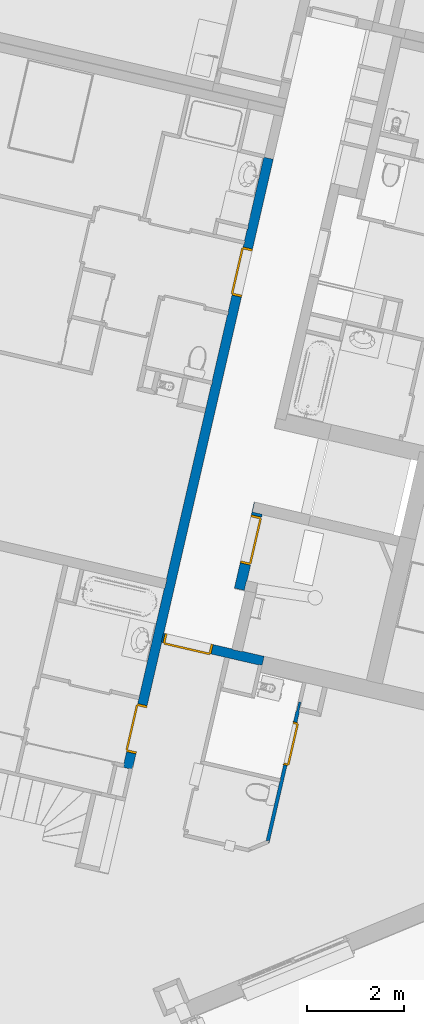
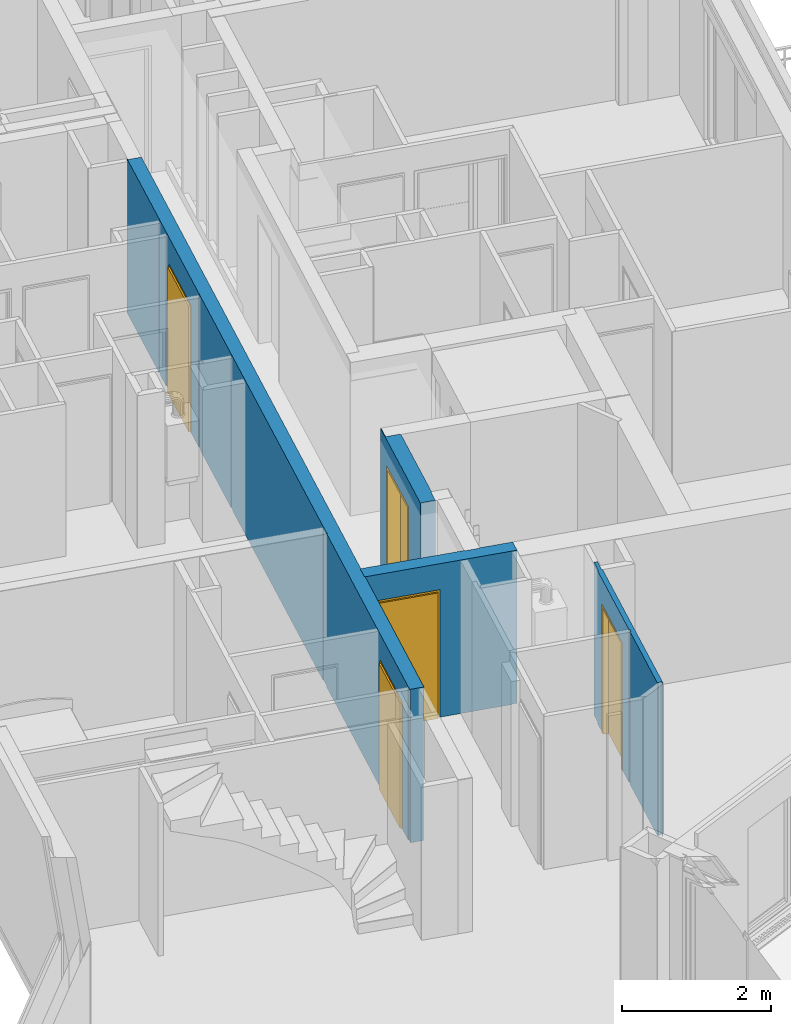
# One storey, part 8 of 62: 5 doors, 4 walls, 5 openings.
"""IFC2X3 building model written with IfcOpenShell, lengths in metres."""

from ifc_helpers import new_model, entity, si_unit, converted_unit, derived_unit, money_unit, direction, frame, origin_with_axes, place, context, subcontext, project, spatial, faceted_brep, source, transform, mapped, material, material_list, type_object, element, fill, save


model = new_model("IFC2X3")

# Units and contexts
model_context = context("Model", 3, precision=1e-05, world=origin_with_axes(), true_north=direction((0.0, 1.0)))
body_context = subcontext(model_context, "Body", "Model", "MODEL_VIEW")
ifc_project = project(units=[si_unit("LENGTHUNIT", "METRE"), si_unit("AREAUNIT", "SQUARE_METRE"), si_unit("VOLUMEUNIT", "CUBIC_METRE"), converted_unit("PLANEANGLEUNIT", "DEGREE", entity("IfcPlaneAngleMeasure", 0.0174532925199), si_unit("PLANEANGLEUNIT", "RADIAN"), dimensions=[0, 0, 0, 0, 0, 0, 0]), si_unit("SOLIDANGLEUNIT", "STERADIAN"), money_unit("EUR"), converted_unit("TIMEUNIT", "Year", entity("IfcTimeMeasure", 31556926.0), si_unit("TIMEUNIT", "SECOND"), dimensions=[0, 0, 1, 0, 0, 0, 0]), si_unit("MASSUNIT", "GRAM", prefix="KILO"), si_unit("THERMODYNAMICTEMPERATUREUNIT", "DEGREE_CELSIUS"), si_unit("LUMINOUSINTENSITYUNIT", "LUMEN"), si_unit("ENERGYUNIT", "JOULE", prefix="MEGA"), derived_unit("THERMALCONDUCTANCEUNIT", [(si_unit("POWERUNIT", "WATT"), 1), (si_unit("LENGTHUNIT", "METRE"), -1), (si_unit("THERMODYNAMICTEMPERATUREUNIT", "KELVIN"), -1)]), derived_unit("SPECIFICHEATCAPACITYUNIT", [(si_unit("ENERGYUNIT", "JOULE"), 1), (si_unit("MASSUNIT", "GRAM", prefix="KILO"), -1), (si_unit("THERMODYNAMICTEMPERATUREUNIT", "KELVIN"), -1)]), derived_unit("MASSDENSITYUNIT", [(si_unit("MASSUNIT", "GRAM", prefix="KILO"), 1), (si_unit("VOLUMEUNIT", "CUBIC_METRE"), -1)])], contexts=[model_context])

# Site, building, storey
site_placement = place(None, origin_with_axes())
site = spatial("IfcSite", under=ifc_project, at=site_placement, Name="Site", CompositionType="ELEMENT")
building_placement = place(site_placement, origin_with_axes())
building = spatial("IfcBuilding", under=site, at=building_placement, Name="Bâtiment", CompositionType="ELEMENT")
storey_placement = place(building_placement, frame((0.0, 0.0, 8.16), z_axis=(0.0, 0.0, 1.0), x_axis=(1.0, 0.0, 0.0)))
storey = spatial("IfcBuildingStorey", under=building, at=storey_placement, Name="R+3", CompositionType="ELEMENT", Elevation=8.16)

# Wall, opening, door
ifc_material_1 = material(Name="Finition int - Plaque de plâtre")
ifc_material_2 = material(Name="Isolation - Laine de roche")
ifc_material_list_1 = material_list([ifc_material_1, ifc_material_2, ifc_material_1])
wall_type_1 = type_object("IfcWallType", Name="3 - Cloison 72mm Placostil 74", PredefinedType="USERDEFINED")
wall_1_placement = place(storey_placement, frame((-9.85326407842, -10.0442394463, 0.0), z_axis=(0.0, 0.0, 1.0), x_axis=(-0.224876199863, -0.974387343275, 0.0)))
wall_1 = element("IfcWall", 1, at=wall_1_placement, inside=storey, type_object=wall_type_1, material=ifc_material_list_1, Name="Cloison Placostil 72/48", ObjectType="PARTITIONING", context=body_context, shape_type="Brep", body=[
    faceted_brep([(1.13692344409, 0.0, 0.0), (1.13692344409, 0.0, 2.08), (0.226923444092, 0.0, 2.08), (0.226923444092, 0.0, 0.0), (0.0, 0.0, 0.0), (0.0, 0.0, 2.5), (2.77059996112, 0.0, 2.5), (2.77059996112, 0.0, 0.0), (1.13692344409, -0.013, 0.0), (1.13692344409, -0.013, 2.08), (0.226923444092, -0.013, 2.08), (0.226923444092, -0.013, 0.0), (0.0, -0.013, 0.0), (0.0, -0.013, 2.5), (2.77988037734, -0.013, 2.5), (2.77988037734, -0.013, 0.0)], [[[0, 1, 2, 3, 4, 5, 6, 7]], [[1, 0, 8, 9]], [[2, 1, 9, 10]], [[3, 2, 10, 11]], [[3, 11, 12, 4]], [[13, 5, 4, 12]], [[5, 13, 14, 6]], [[7, 6, 14, 15]], [[8, 0, 7, 15]], [[9, 8, 15, 14, 13, 12, 11, 10]]]),
    faceted_brep([(1.13692344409, -0.013, 0.0), (1.13692344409, -0.013, 2.08), (0.226923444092, -0.013, 2.08), (0.226923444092, -0.013, 0.0), (-0.2, -0.013, 0.0), (-0.2, -0.013, 2.5), (2.72090437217, -0.013, 2.5), (2.72090437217, -0.013, 0.0), (1.13692344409, -0.061, 0.0), (1.13692344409, -0.061, 2.08), (0.226923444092, -0.061, 2.08), (0.226923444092, -0.061, 0.0), (-0.2, -0.061, 0.0), (-0.2, -0.061, 2.5), (2.75517052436, -0.061, 2.5), (2.75517052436, -0.061, 0.0)], [[[0, 1, 2, 3, 4, 5, 6, 7]], [[1, 0, 8, 9]], [[2, 1, 9, 10]], [[3, 2, 10, 11]], [[3, 11, 12, 4]], [[4, 12, 13, 5]], [[5, 13, 14, 6]], [[7, 6, 14, 15]], [[8, 0, 7, 15]], [[9, 8, 15, 14, 13, 12, 11, 10]]]),
    faceted_brep([(1.13692344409, -0.061, 0.0), (1.13692344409, -0.061, 2.08), (0.226923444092, -0.061, 2.08), (0.226923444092, -0.061, 0.0), (0.0, -0.061, 0.0), (0.0, -0.061, 2.5), (1.44696351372, -0.061, 2.5), (1.44696351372, -0.061, 0.0), (1.13692344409, -0.074, 0.0), (1.13692344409, -0.074, 2.08), (0.226923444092, -0.074, 2.08), (0.226923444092, -0.074, 0.0), (0.0, -0.074, 0.0), (0.0, -0.074, 2.5), (1.44696351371, -0.074, 2.5), (1.44696351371, -0.074, 0.0)], [[[0, 1, 2, 3, 4, 5, 6, 7]], [[1, 0, 8, 9]], [[2, 1, 9, 10]], [[3, 2, 10, 11]], [[3, 11, 12, 4]], [[13, 5, 4, 12]], [[5, 13, 14, 6]], [[7, 6, 14, 15]], [[8, 0, 7, 15]], [[9, 8, 15, 14, 13, 12, 11, 10]]]),
    faceted_brep([(1.49496351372, -0.061, 2.5), (1.49496351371, -0.074, 2.5), (2.74847827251, -0.074, 2.5), (2.73919785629, -0.061, 2.5), (1.49496351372, -0.061, 0.0), (1.49496351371, -0.074, 0.0), (2.74847827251, -0.074, 0.0), (2.73919785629, -0.061, 0.0)], [[[0, 1, 2, 3]], [[1, 0, 4, 5]], [[1, 5, 6, 2]], [[7, 3, 2, 6]], [[4, 0, 3, 7]], [[5, 4, 7, 6]]]),
])
opening_1_placement = place(wall_1_placement, frame((0.681923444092, 0.0, 0.0), z_axis=(0.0, 0.0, 1.0), x_axis=(1.0, 0.0, 0.0)))
opening_1 = element("IfcOpeningElement", 2, at=opening_1_placement, cuts=wall_1, Name="Porte 83x204 bois alvéolaire", context=body_context, shape_type="Brep", body=[
    faceted_brep([(-0.455, 0.074, 0.0), (0.455, 0.074, 0.0), (0.455, -0.074, 0.0), (-0.455, -0.074, 0.0), (-0.455, 0.074, 2.08), (0.455, 0.074, 2.08), (0.455, -0.074, 2.08), (-0.455, -0.074, 2.08)], [[[0, 1, 2, 3]], [[0, 4, 5, 1]], [[1, 5, 6, 2]], [[3, 2, 6, 7]], [[4, 0, 3, 7]], [[5, 4, 7, 6]]]),
])
door_style_1 = type_object("IfcDoorStyle", Name="Porte int générique 2019", ConstructionType="NOTDEFINED", OperationType="SINGLE_SWING_LEFT", ParameterTakesPrecedence=False, Sizeable=False)
shared_shape_1 = source(origin_with_axes(), body_context, "Body", "Brep", [
    faceted_brep([(-0.455, -0.006, 0.0), (-0.455, -0.006, 2.08), (0.455, -0.006, 2.08), (0.455, -0.006, 0.0), (0.415, -0.006, 0.0), (0.415, -0.006, 2.04), (-0.415, -0.006, 2.04), (-0.415, -0.006, 0.0), (-0.455, -0.08, 0.0), (-0.455, -0.08, 2.08), (0.455, -0.08, 2.08), (0.455, -0.08, 0.0), (0.415, -0.08, 0.0), (0.415, -0.08, 2.04), (-0.415, -0.08, 2.04), (-0.415, -0.08, 0.0)], [[[0, 1, 2, 3, 4, 5, 6, 7]], [[8, 9, 1, 0]], [[9, 10, 2, 1]], [[10, 11, 3, 2]], [[3, 11, 12, 4]], [[5, 4, 12, 13]], [[6, 5, 13, 14]], [[7, 6, 14, 15]], [[0, 7, 15, 8]], [[15, 14, 13, 12, 11, 10, 9, 8]]]),
    faceted_brep([(-0.465, -0.006, 0.0), (-0.465, -0.006, 2.09), (-0.465, 0.004, 2.09), (-0.465, 0.004, 0.0), (-0.435, -0.006, 0.0), (-0.435, -0.006, 2.06), (0.435, -0.006, 2.06), (0.435, -0.006, 0.0), (0.465, -0.006, 0.0), (0.465, -0.006, 2.09), (0.465, 0.004, 2.09), (0.465, 0.004, 0.0), (0.435, 0.004, 0.0), (0.435, 0.004, 2.06), (-0.435, 0.004, 2.06), (-0.435, 0.004, 0.0)], [[[0, 1, 2, 3]], [[4, 5, 6, 7, 8, 9, 1, 0]], [[1, 9, 10, 2]], [[3, 2, 10, 11, 12, 13, 14, 15]], [[0, 3, 15, 4]], [[15, 14, 5, 4]], [[14, 13, 6, 5]], [[13, 12, 7, 6]], [[8, 7, 12, 11]], [[9, 8, 11, 10]]]),
    faceted_brep([(-0.465, -0.09, 0.0), (-0.465, -0.09, 2.09), (-0.465, -0.08, 2.09), (-0.465, -0.08, 0.0), (-0.435, -0.09, 0.0), (-0.435, -0.09, 2.06), (0.435, -0.09, 2.06), (0.435, -0.09, 0.0), (0.465, -0.09, 0.0), (0.465, -0.09, 2.09), (0.465, -0.08, 2.09), (0.465, -0.08, 0.0), (0.435, -0.08, 0.0), (0.435, -0.08, 2.06), (-0.435, -0.08, 2.06), (-0.435, -0.08, 0.0)], [[[0, 1, 2, 3]], [[4, 5, 6, 7, 8, 9, 1, 0]], [[1, 9, 10, 2]], [[3, 2, 10, 11, 12, 13, 14, 15]], [[0, 3, 15, 4]], [[15, 14, 5, 4]], [[14, 13, 6, 5]], [[13, 12, 7, 6]], [[8, 7, 12, 11]], [[9, 8, 11, 10]]]),
    faceted_brep([(-0.435, 0.034, 0.0), (0.435, 0.034, 0.0), (0.435, -0.006, 0.0), (-0.435, -0.006, 0.0), (-0.435, 0.034, 2.06), (0.435, 0.034, 2.06), (0.435, -0.006, 2.06), (-0.435, -0.006, 2.06)], [[[0, 1, 2, 3]], [[0, 4, 5, 1]], [[1, 5, 6, 2]], [[3, 2, 6, 7]], [[4, 0, 3, 7]], [[5, 4, 7, 6]]]),
])
door_1_placement = place(opening_1_placement, frame((-0.415, 0.0, 0.0), z_axis=(0.0, 0.0, 1.0), x_axis=(1.0, 0.0, 0.0)))
door_1 = element("IfcDoor", 3, at=door_1_placement, inside=storey, type_object=door_style_1, Name="Porte 83x204 bois alvéolaire", ObjectType="DOOR", OverallHeight=2.04, OverallWidth=0.83, context=body_context, shape_type="MappedRepresentation", body=[
    mapped(shared_shape_1, transform((0.415, 0.006, 0.0))),
])
fill(opening_1, door_1)

# Wall, openings, doors
ifc_material_3 = material(Name="Finition int - Enduit plâtre")
ifc_material_4 = material(Name="Béton")
ifc_material_list_2 = material_list([ifc_material_3, ifc_material_4, ifc_material_3])
wall_type_2 = type_object("IfcWallType", Name="2 - Murs Béton 18 + Enduit 2 Faces 200", PredefinedType="USERDEFINED")
wall_2_placement = place(storey_placement, frame((-10.404385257, 1.37535274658, 0.0), z_axis=(0.0, 0.0, 1.0), x_axis=(-0.22487619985, -0.974387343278, 0.0)))
wall_2 = element("IfcWall", 4, at=wall_2_placement, inside=storey, type_object=wall_type_2, material=ifc_material_list_2, Name="M_Ext-009", ObjectType="SOLIDWALL", context=body_context, shape_type="Brep", body=[
    faceted_brep([(12.6079457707, 0.00999999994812, 0.0), (12.6079457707, 0.00999999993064, 2.085), (11.5879457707, 0.00999999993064, 2.085), (11.5879457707, 0.00999999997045, 0.0), (10.2381720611, 0.01, 0.0), (10.2381720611, 0.01, 2.50999999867), (12.9381355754, 0.00999999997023, 2.51), (12.9381355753, 0.00999999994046, 2.5), (12.8641355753, 0.00999999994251, 2.5), (12.8641355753, 0.00999999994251, 0.0), (12.6079457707, 0.0, 0.0), (12.6079457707, 0.0, 2.085), (11.5879457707, 0.0, 2.085), (11.5879457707, 0.0, 0.0), (10.2381720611, 0.0, 0.0), (10.2381720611, 0.0, 2.50999999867), (12.9381355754, 0.0, 2.51), (12.9381355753, 0.0, 2.5), (12.8641355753, 0.0, 2.5), (12.8641355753, 0.0, 0.0)], [[[0, 1, 2, 3, 4, 5, 6, 7, 8, 9]], [[1, 0, 10, 11]], [[2, 1, 11, 12]], [[3, 2, 12, 13]], [[3, 13, 14, 4]], [[5, 4, 14, 15]], [[6, 5, 15, 16]], [[16, 17, 7, 6]], [[18, 8, 7, 17]], [[9, 8, 18, 19]], [[10, 0, 9, 19]], [[11, 10, 19, 18, 17, 16, 15, 14, 13, 12]]]),
    faceted_brep([(2.92382101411, 0.01, 0.0), (2.92382101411, 0.00999999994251, 2.085), (1.90382101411, 0.00999999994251, 2.085), (1.90382101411, 0.01, 0.0), (0.0, 0.01, 0.0), (0.0, 0.01, 2.50999999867), (10.0581720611, 0.01, 2.50999999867), (10.0581720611, 0.01, 0.0), (2.92382101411, 0.0, 0.0), (2.92382101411, 0.0, 2.085), (1.90382101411, 0.0, 2.085), (1.90382101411, 0.0, 0.0), (0.0, 0.0, 0.0), (0.0, 0.0, 2.50999999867), (10.0581720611, 0.0, 2.50999999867), (10.0581720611, 0.0, 0.0)], [[[0, 1, 2, 3, 4, 5, 6, 7]], [[1, 0, 8, 9]], [[2, 1, 9, 10]], [[3, 2, 10, 11]], [[3, 11, 12, 4]], [[5, 4, 12, 13]], [[6, 5, 13, 14]], [[14, 15, 7, 6]], [[8, 0, 7, 15]], [[9, 8, 15, 14, 13, 12, 11, 10]]]),
    faceted_brep([(2.92382101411, 0.0, 0.0), (2.92382101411, 0.0, 2.085), (1.90382101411, 0.0, 2.085), (1.90382101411, 0.0, 0.0), (0.0, 0.0, 0.0), (0.0, 0.0, 2.50999999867), (10.2428903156, 0.0, 2.51), (12.9381355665, 0.0, 2.51), (12.9381355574, 0.0, 2.5), (12.9381355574, 0.0, 0.0), (12.6079457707, 0.0, 0.0), (12.6079457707, 0.0, 2.085), (11.5879457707, 0.0, 2.085), (11.5879457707, 0.0, 0.0), (2.92382101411, -0.18, 0.0), (2.92382101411, -0.18, 2.085), (1.90382101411, -0.18, 2.085), (1.90382101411, -0.18, 0.0), (0.0, -0.18, 0.0), (0.0, -0.18, 2.50999999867), (9.13713557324, -0.180000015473, 2.51), (10.243282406, -0.177557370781, 2.51), (12.9381355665, -0.18, 2.51), (12.9381355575, -0.18, 2.5), (12.9381355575, -0.18, 0.0), (12.6079457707, -0.18, 0.0), (12.6079457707, -0.18, 2.085), (11.5879457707, -0.18, 2.085), (11.5879457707, -0.18, 0.0)], [[[0, 1, 2, 3, 4, 5, 6, 7, 8, 9, 10, 11, 12, 13]], [[1, 0, 14, 15]], [[2, 1, 15, 16]], [[3, 2, 16, 17]], [[3, 17, 18, 4]], [[4, 18, 19, 5]], [[20, 21, 6, 5, 19]], [[21, 20, 22, 7, 6]], [[23, 8, 7, 22]], [[8, 23, 24, 9]], [[10, 9, 24, 25]], [[10, 25, 26, 11]], [[11, 26, 27, 12]], [[12, 27, 28, 13]], [[14, 0, 13, 28]], [[15, 14, 28, 27, 26, 25, 24, 23, 22, 20, 19, 18, 17, 16]]]),
    faceted_brep([(2.92382101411, -0.18, 0.0), (2.92382101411, -0.180000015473, 2.085), (1.90382101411, -0.180000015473, 2.085), (1.90382101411, -0.18, 0.0), (1.84846721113, -0.18, 0.0), (1.84846721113, -0.18, 2.5), (1.77446721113, -0.18, 2.5), (1.77446721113, -0.18, 0.0), (1.52446720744, -0.18, 0.0), (1.52446720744, -0.18, 2.5), (1.45046720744, -0.18, 2.5), (1.45046720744, -0.18, 0.0), (0.0, -0.18, 0.0), (0.0, -0.18, 2.52), (9.13713557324, -0.180000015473, 2.52), (9.13713557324, -0.180000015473, 2.51), (8.95713557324, -0.18, 2.51), (8.95713557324, -0.18, 0.0), (4.82184246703, -0.18, 0.0), (4.82184246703, -0.18, 2.5), (4.74784246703, -0.18, 2.5), (4.74784246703, -0.18, 0.0), (3.34784246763, -0.18, 0.0), (3.34784246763, -0.18, 2.5), (3.27384246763, -0.18, 2.5), (3.27384246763, -0.18, 0.0), (2.92382101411, -0.19, 0.0), (2.92382101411, -0.19, 2.085), (1.90382101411, -0.19, 2.085), (1.90382101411, -0.19, 0.0), (1.84846721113, -0.19, 0.0), (1.84846721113, -0.19, 2.5), (1.77446721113, -0.19, 2.5), (1.77446721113, -0.19, 0.0), (1.52446720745, -0.19, 0.0), (1.52446720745, -0.19, 2.5), (1.45046720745, -0.19, 2.5), (1.45046720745, -0.19, 0.0), (0.0, -0.19, 0.0), (0.0, -0.19, 2.52), (9.13713557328, -0.19, 2.52), (9.13713557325, -0.19, 2.51), (8.95713557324, -0.19, 2.51), (8.95713557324, -0.19, 0.0), (4.82184246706, -0.19, 0.0), (4.82184246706, -0.19, 2.5), (4.74784246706, -0.19, 2.5), (4.74784246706, -0.19, 0.0), (3.34784246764, -0.19, 0.0), (3.34784246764, -0.19, 2.5), (3.27384246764, -0.19, 2.5), (3.27384246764, -0.19, 0.0)], [[[0, 1, 2, 3, 4, 5, 6, 7, 8, 9, 10, 11, 12, 13, 14, 15, 16, 17, 18, 19, 20, 21, 22, 23, 24, 25]], [[1, 0, 26, 27]], [[2, 1, 27, 28]], [[3, 2, 28, 29]], [[3, 29, 30, 4]], [[30, 31, 5, 4]], [[32, 6, 5, 31]], [[32, 33, 7, 6]], [[7, 33, 34, 8]], [[34, 35, 9, 8]], [[36, 10, 9, 35]], [[36, 37, 11, 10]], [[38, 12, 11, 37]], [[39, 13, 12, 38]], [[14, 13, 39, 40]], [[40, 41, 15, 14]], [[41, 42, 16, 15]], [[42, 43, 17, 16]], [[17, 43, 44, 18]], [[44, 45, 19, 18]], [[46, 20, 19, 45]], [[46, 47, 21, 20]], [[48, 22, 21, 47]], [[48, 49, 23, 22]], [[50, 24, 23, 49]], [[50, 51, 25, 24]], [[26, 0, 25, 51]], [[27, 26, 51, 50, 49, 48, 47, 46, 45, 44, 43, 42, 41, 40, 39, 38, 37, 36, 35, 34, 33, 32, 31, 30, 29, 28]]]),
    faceted_brep([(12.6079457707, -0.18, 0.0), (12.6079457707, -0.180000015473, 2.085), (11.5879457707, -0.180000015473, 2.085), (11.5879457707, -0.18, 0.0), (9.13713557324, -0.18, 0.0), (9.13713557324, -0.180000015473, 2.51), (12.9381355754, -0.18, 2.51), (12.9381355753, -0.18, 2.5), (12.8641355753, -0.18, 2.5), (12.8641355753, -0.18, 0.0), (12.6079457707, -0.19, 0.0), (12.6079457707, -0.19, 2.085), (11.5879457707, -0.19, 2.085), (11.5879457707, -0.19, 0.0), (9.13713557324, -0.19, 0.0), (9.13713557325, -0.19, 2.51), (12.9381355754, -0.19, 2.51), (12.9381355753, -0.19, 2.5), (12.8641355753, -0.19, 2.5), (12.8641355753, -0.19, 0.0)], [[[0, 1, 2, 3, 4, 5, 6, 7, 8, 9]], [[1, 0, 10, 11]], [[2, 1, 11, 12]], [[3, 2, 12, 13]], [[3, 13, 14, 4]], [[14, 15, 5, 4]], [[5, 15, 16, 6]], [[16, 17, 7, 6]], [[7, 17, 18, 8]], [[18, 19, 9, 8]], [[10, 0, 9, 19]], [[11, 10, 19, 18, 17, 16, 15, 14, 13, 12]]]),
])
opening_2_placement = place(wall_2_placement, frame((12.0979457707, 0.0, 0.0), z_axis=(0.0, 0.0, 1.0), x_axis=(1.0, 0.0, 0.0)))
opening_2 = element("IfcOpeningElement", 5, at=opening_2_placement, cuts=wall_2, Name="Porte 83x204 bois alvéolaire", context=body_context, shape_type="Brep", body=[
    faceted_brep([(-0.51, 0.2, 0.0), (0.51, 0.2, 0.0), (0.51, -0.2, 0.0), (-0.51, -0.2, 0.0), (-0.51, 0.2, 2.085), (0.51, 0.2, 2.085), (0.51, -0.2, 2.085), (-0.51, -0.2, 2.085)], [[[0, 1, 2, 3]], [[0, 4, 5, 1]], [[1, 5, 6, 2]], [[3, 2, 6, 7]], [[4, 0, 3, 7]], [[5, 4, 7, 6]]]),
])
opening_3_placement = place(wall_2_placement, frame((2.41382101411, 0.0, 0.0), z_axis=(0.0, 0.0, 1.0), x_axis=(1.0, 0.0, 0.0)))
opening_3 = element("IfcOpeningElement", 6, at=opening_3_placement, cuts=wall_2, Name="Porte 93x204 bois blindée", context=body_context, shape_type="Brep", body=[
    faceted_brep([(-0.51, 0.2, 0.0), (0.51, 0.2, 0.0), (0.51, -0.2, 0.0), (-0.51, -0.2, 0.0), (-0.51, 0.2, 2.085), (0.51, 0.2, 2.085), (0.51, -0.2, 2.085), (-0.51, -0.2, 2.085)], [[[0, 1, 2, 3]], [[0, 4, 5, 1]], [[1, 5, 6, 2]], [[3, 2, 6, 7]], [[4, 0, 3, 7]], [[5, 4, 7, 6]]]),
])
door_style_2 = type_object("IfcDoorStyle", Name="Porte int générique 2019", ConstructionType="NOTDEFINED", OperationType="SINGLE_SWING_RIGHT", ParameterTakesPrecedence=False, Sizeable=False)
shared_shape_2 = source(origin_with_axes(), body_context, "Body", "Brep", [
    faceted_brep([(0.51, 0.0, 0.0), (0.48, 0.0, 0.0), (0.48, 0.0, 2.055), (-0.48, 0.0, 2.055), (-0.48, 0.0, 0.0), (-0.51, 0.0, 0.0), (-0.51, 0.0, 2.085), (0.51, 0.0, 2.085), (0.51, -0.2, 0.0), (0.465, -0.2, 0.0), (0.465, -0.015, 0.0), (0.48, -0.015, 0.0), (0.48, -0.015, 2.055), (-0.48, -0.015, 2.055), (-0.48, -0.015, 0.0), (-0.465, -0.015, 0.0), (-0.465, -0.2, 0.0), (-0.51, -0.2, 0.0), (-0.51, -0.2, 2.085), (0.51, -0.2, 2.085), (-0.465, -0.2, 2.04), (0.465, -0.2, 2.04), (0.465, -0.015, 2.04), (-0.465, -0.015, 2.04)], [[[0, 1, 2, 3, 4, 5, 6, 7]], [[0, 8, 9, 10, 11, 1]], [[1, 11, 12, 2]], [[2, 12, 13, 3]], [[3, 13, 14, 4]], [[5, 4, 14, 15, 16, 17]], [[18, 6, 5, 17]], [[19, 7, 6, 18]], [[8, 0, 7, 19]], [[9, 8, 19, 18, 17, 16, 20, 21]], [[10, 9, 21, 22]], [[11, 10, 22, 23, 15, 14, 13, 12]], [[23, 20, 16, 15]], [[22, 21, 20, 23]]]),
    faceted_brep([(0.48, 0.025, 0.0), (0.48, -0.015, 0.0), (-0.48, -0.015, 0.0), (-0.48, 0.025, 0.0), (0.48, 0.025, 2.055), (0.48, -0.015, 2.055), (-0.48, -0.015, 2.055), (-0.48, 0.025, 2.055)], [[[0, 1, 2, 3]], [[4, 5, 1, 0]], [[1, 5, 6, 2]], [[3, 2, 6, 7]], [[0, 3, 7, 4]], [[7, 6, 5, 4]]]),
])
door_2_placement = place(opening_2_placement, frame((0.465, 0.0, 0.0), z_axis=(0.0, 0.0, 1.0), x_axis=(-1.0, 0.0, 0.0)))
door_2 = element("IfcDoor", 7, at=door_2_placement, inside=storey, type_object=door_style_2, Name="Porte 83x204 bois alvéolaire", ObjectType="DOOR", OverallHeight=2.04, OverallWidth=0.93, context=body_context, shape_type="MappedRepresentation", body=[
    mapped(shared_shape_2, transform((0.465, 0.19, 0.0))),
])
fill(opening_2, door_2)
door_3_placement = place(opening_3_placement, frame((0.465, 0.0, 0.0), z_axis=(0.0, 0.0, 1.0), x_axis=(-1.0, 0.0, 0.0)))
door_3 = element("IfcDoor", 8, at=door_3_placement, inside=storey, type_object=door_style_2, Name="Porte 93x204 bois blindée", ObjectType="DOOR", OverallHeight=2.04, OverallWidth=0.93, context=body_context, shape_type="MappedRepresentation", body=[
    mapped(shared_shape_2, transform((0.465, 0.19, 0.0))),
])
fill(opening_3, door_3)

# Wall, opening, door
wall_3_placement = place(storey_placement, frame((-10.5843017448, -8.90568507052, 0.0), z_axis=(0.0, 0.0, 1.0), x_axis=(-0.974387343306, 0.22487619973, 0.0)))
wall_3 = element("IfcWall", 9, at=wall_3_placement, inside=storey, type_object=wall_type_2, material=ifc_material_list_2, Name="M_Ext-009", ObjectType="SOLIDWALL", context=body_context, shape_type="Brep", body=[
    faceted_brep([(2.10180469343, 0.18, 2.085), (2.10180469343, 0.18, 0.0), (2.12665236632, 0.18, 0.0), (2.12665236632, 0.18, 2.51), (0.0, 0.18, 2.51), (0.0, 0.18, 2.5), (0.0740000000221, 0.18, 2.5), (0.0740000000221, 0.18, 0.0), (1.08180469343, 0.18, 0.0), (1.08180469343, 0.18, 2.085), (2.10180469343, 0.19, 2.085), (2.10180469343, 0.19, 0.0), (2.12665236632, 0.19, 0.0), (2.12665236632, 0.19, 2.51), (0.0, 0.19, 2.51), (0.0, 0.19, 2.5), (0.0740000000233, 0.19, 2.5), (0.0740000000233, 0.19, 0.0), (1.08180469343, 0.19, 0.0), (1.08180469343, 0.19, 2.085)], [[[0, 1, 2, 3, 4, 5, 6, 7, 8, 9]], [[1, 0, 10, 11]], [[1, 11, 12, 2]], [[13, 3, 2, 12]], [[13, 14, 4, 3]], [[14, 15, 5, 4]], [[5, 15, 16, 6]], [[17, 7, 6, 16]], [[18, 8, 7, 17]], [[9, 8, 18, 19]], [[0, 9, 19, 10]], [[19, 18, 17, 16, 15, 14, 13, 12, 11, 10]]]),
    faceted_brep([(2.10180469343, 0.0, 2.085), (2.10180469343, 0.0, 0.0), (2.1366523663, 0.0, 0.0), (2.1366523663, 0.0, 2.51), (0.0, 0.0, 2.51), (0.0, 0.0, 0.0), (1.08180469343, 0.0, 0.0), (1.08180469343, 0.0, 2.085), (2.10180469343, 0.18, 2.085), (2.10180469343, 0.18, 0.0), (2.13665236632, 0.18, 0.0), (2.13665236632, 0.18, 2.51), (0.0, 0.18, 2.51), (0.0, 0.18, 0.0), (1.08180469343, 0.18, 0.0), (1.08180469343, 0.18, 2.085)], [[[0, 1, 2, 3, 4, 5, 6, 7]], [[1, 0, 8, 9]], [[1, 9, 10, 2]], [[11, 3, 2, 10]], [[11, 12, 4, 3]], [[5, 4, 12, 13]], [[14, 6, 5, 13]], [[7, 6, 14, 15]], [[0, 7, 15, 8]], [[15, 14, 13, 12, 11, 10, 9, 8]]]),
    faceted_brep([(0.0, -0.01, 0.0), (0.0, 0.0, 0.0), (0.471804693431, 0.0, 0.0), (0.47180469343, -0.01, 0.0), (0.0, -0.01, 2.51), (0.0, 0.0, 2.51), (0.471804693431, 0.0, 2.51), (0.47180469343, -0.01, 2.51)], [[[0, 1, 2, 3]], [[4, 5, 1, 0]], [[1, 5, 6, 2]], [[7, 3, 2, 6]], [[4, 0, 3, 7]], [[5, 4, 7, 6]]]),
    faceted_brep([(2.10180469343, -0.01, 2.085), (2.10180469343, -0.01, 0.0), (2.1266523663, -0.01, 0.0), (2.1266523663, -0.01, 2.51), (0.67180469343, -0.01, 2.51), (0.67180469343, -0.01, 0.0), (1.08180469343, -0.01, 0.0), (1.08180469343, -0.01, 2.085), (2.10180469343, 0.0, 2.085), (2.10180469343, 0.0, 0.0), (2.1266523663, 0.0, 0.0), (2.1266523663, 0.0, 2.51), (0.671804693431, 0.0, 2.51), (0.671804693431, 0.0, 0.0), (1.08180469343, 0.0, 0.0), (1.08180469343, 0.0, 2.085)], [[[0, 1, 2, 3, 4, 5, 6, 7]], [[1, 0, 8, 9]], [[1, 9, 10, 2]], [[2, 10, 11, 3]], [[4, 3, 11, 12]], [[5, 4, 12, 13]], [[14, 6, 5, 13]], [[7, 6, 14, 15]], [[0, 7, 15, 8]], [[15, 14, 13, 12, 11, 10, 9, 8]]]),
])
opening_4_placement = place(wall_3_placement, frame((1.59180469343, 0.0, 0.0), z_axis=(0.0, 0.0, 1.0), x_axis=(1.0, 0.0, 0.0)))
opening_4 = element("IfcOpeningElement", 10, at=opening_4_placement, cuts=wall_3, Name="Porte 93x204 bois blindée", context=body_context, shape_type="Brep", body=[
    faceted_brep([(0.51, -0.2, 0.0), (-0.51, -0.2, 0.0), (-0.51, 0.2, 0.0), (0.51, 0.2, 0.0), (0.51, -0.2, 2.085), (-0.51, -0.2, 2.085), (-0.51, 0.2, 2.085), (0.51, 0.2, 2.085)], [[[0, 1, 2, 3]], [[0, 4, 5, 1]], [[1, 5, 6, 2]], [[3, 2, 6, 7]], [[4, 0, 3, 7]], [[5, 4, 7, 6]]]),
])
door_4_placement = place(opening_4_placement, frame((-0.465, 0.0, 0.0), z_axis=(0.0, 0.0, 1.0), x_axis=(1.0, 0.0, 0.0)))
door_4 = element("IfcDoor", 11, at=door_4_placement, inside=storey, type_object=door_style_2, Name="Porte 93x204 bois blindée", ObjectType="DOOR", OverallHeight=2.04, OverallWidth=0.93, context=body_context, shape_type="MappedRepresentation", body=[
    mapped(shared_shape_2, transform((0.465, 0.19, 0.0))),
])
fill(opening_4, door_4)

wall_type_3 = type_object("IfcWallType", Name="2 - Murs Béton 20 + Enduit 2 Faces  220", PredefinedType="USERDEFINED")
wall_4_placement = place(storey_placement, frame((-10.7747392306, -5.72129964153, 0.0), z_axis=(0.0, 0.0, 1.0), x_axis=(-0.224876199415, -0.974387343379, 0.0)))
wall_4 = element("IfcWall", 12, at=wall_4_placement, inside=storey, type_object=wall_type_3, material=ifc_material_list_2, Name="M_Ext-009", ObjectType="SOLIDWALL", context=body_context, shape_type="Brep", body=[
    faceted_brep([(1.28000000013, 0.205, 0.0), (1.28000000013, 0.205, 2.085), (0.260000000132, 0.205, 2.085), (0.260000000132, 0.205, 0.0), (0.209999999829, 0.205, 0.0), (0.209999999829, 0.205, 2.51), (1.6160531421, 0.205, 2.51), (1.6160531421, 0.205, 0.0), (1.28000000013, 0.195, 0.0), (1.28000000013, 0.195, 2.085), (0.260000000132, 0.195, 2.085), (0.260000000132, 0.195, 0.0), (0.209999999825, 0.195, 0.0), (0.209999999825, 0.195, 2.51), (1.61605314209, 0.195, 2.51), (1.61605314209, 0.195, 0.0)], [[[0, 1, 2, 3, 4, 5, 6, 7]], [[1, 0, 8, 9]], [[2, 1, 9, 10]], [[3, 2, 10, 11]], [[3, 11, 12, 4]], [[4, 12, 13, 5]], [[6, 5, 13, 14]], [[7, 6, 14, 15]], [[8, 0, 7, 15]], [[9, 8, 15, 14, 13, 12, 11, 10]]]),
    faceted_brep([(1.28000000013, 0.195, 0.0), (1.28000000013, 0.195, 2.085), (0.260000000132, 0.195, 2.085), (0.260000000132, 0.195, 0.0), (0.199999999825, 0.195, 0.0), (0.199999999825, 0.195, 2.51), (1.81605314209, 0.195, 2.51), (1.81605314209, 0.195, 0.0), (1.28000000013, -0.005, 0.0), (1.28000000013, -0.005, 2.085), (0.260000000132, -0.005, 2.085), (0.260000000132, -0.005, 0.0), (0.199999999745, -0.005, 0.0), (0.199999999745, -0.005, 2.51), (1.816053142, -0.005, 2.51), (1.816053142, -0.005, 0.0)], [[[0, 1, 2, 3, 4, 5, 6, 7]], [[1, 0, 8, 9]], [[2, 1, 9, 10]], [[3, 2, 10, 11]], [[3, 11, 12, 4]], [[4, 12, 13, 5]], [[6, 5, 13, 14]], [[7, 6, 14, 15]], [[8, 0, 7, 15]], [[9, 8, 15, 14, 13, 12, 11, 10]]]),
    faceted_brep([(1.28000000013, -0.005, 0.0), (1.28000000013, -0.005, 2.085), (0.260000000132, -0.005, 2.085), (0.260000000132, -0.005, 0.0), (-2.55058196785e-10, -0.005, 0.0), (-2.55058196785e-10, -0.005, 2.51), (1.826053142, -0.005, 2.51), (1.826053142, -0.005, 0.0), (1.28000000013, -0.015, 0.0), (1.28000000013, -0.015, 2.085), (0.260000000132, -0.015, 2.085), (0.260000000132, -0.015, 0.0), (-2.59083421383e-10, -0.015, 0.0), (-2.59083421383e-10, -0.015, 2.51), (1.826053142, -0.015, 2.51), (1.826053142, -0.015, 0.0)], [[[0, 1, 2, 3, 4, 5, 6, 7]], [[1, 0, 8, 9]], [[2, 1, 9, 10]], [[3, 2, 10, 11]], [[3, 11, 12, 4]], [[4, 12, 13, 5]], [[6, 5, 13, 14]], [[7, 6, 14, 15]], [[8, 0, 7, 15]], [[9, 8, 15, 14, 13, 12, 11, 10]]]),
])
opening_5_placement = place(wall_4_placement, frame((0.770000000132, 0.0, 0.0), z_axis=(0.0, 0.0, 1.0), x_axis=(1.0, 0.0, 0.0)))
opening_5 = element("IfcOpeningElement", 13, at=opening_5_placement, cuts=wall_4, Name="Porte 93x204 bois CF", context=body_context, shape_type="Brep", body=[
    faceted_brep([(-0.51, 0.22, 0.0), (0.51, 0.22, 0.0), (0.51, -0.22, 0.0), (-0.51, -0.22, 0.0), (-0.51, 0.22, 2.085), (0.51, 0.22, 2.085), (0.51, -0.22, 2.085), (-0.51, -0.22, 2.085)], [[[0, 1, 2, 3]], [[0, 4, 5, 1]], [[1, 5, 6, 2]], [[3, 2, 6, 7]], [[4, 0, 3, 7]], [[5, 4, 7, 6]]]),
])
door_style_3 = type_object("IfcDoorStyle", Name="Porte int générique 2019", ConstructionType="NOTDEFINED", OperationType="SINGLE_SWING_LEFT", ParameterTakesPrecedence=False, Sizeable=False)
shared_shape_3 = source(origin_with_axes(), body_context, "Body", "Brep", [
    faceted_brep([(-0.51, 0.0, 0.0), (-0.51, 0.0, 2.085), (0.51, 0.0, 2.085), (0.51, 0.0, 0.0), (0.48, 0.0, 0.0), (0.48, 0.0, 2.055), (-0.48, 0.0, 2.055), (-0.48, 0.0, 0.0), (-0.51, -0.2, 0.0), (-0.51, -0.2, 2.085), (0.51, -0.2, 2.085), (0.51, -0.2, 0.0), (0.465, -0.2, 0.0), (0.465, -0.015, 0.0), (0.48, -0.015, 0.0), (0.48, -0.015, 2.055), (-0.48, -0.015, 2.055), (-0.48, -0.015, 0.0), (-0.465, -0.015, 0.0), (-0.465, -0.2, 0.0), (-0.465, -0.2, 2.04), (0.465, -0.2, 2.04), (0.465, -0.015, 2.04), (-0.465, -0.015, 2.04)], [[[0, 1, 2, 3, 4, 5, 6, 7]], [[8, 9, 1, 0]], [[9, 10, 2, 1]], [[10, 11, 3, 2]], [[3, 11, 12, 13, 14, 4]], [[5, 4, 14, 15]], [[6, 5, 15, 16]], [[7, 6, 16, 17]], [[0, 7, 17, 18, 19, 8]], [[19, 20, 21, 12, 11, 10, 9, 8]], [[22, 13, 12, 21]], [[17, 16, 15, 14, 13, 22, 23, 18]], [[18, 23, 20, 19]], [[23, 22, 21, 20]]]),
    faceted_brep([(-0.48, 0.025, 0.0), (0.48, 0.025, 0.0), (0.48, -0.015, 0.0), (-0.48, -0.015, 0.0), (-0.48, 0.025, 2.055), (0.48, 0.025, 2.055), (0.48, -0.015, 2.055), (-0.48, -0.015, 2.055)], [[[0, 1, 2, 3]], [[0, 4, 5, 1]], [[1, 5, 6, 2]], [[3, 2, 6, 7]], [[4, 0, 3, 7]], [[5, 4, 7, 6]]]),
])
door_5_placement = place(opening_5_placement, frame((-0.465, 0.0, 0.0), z_axis=(0.0, 0.0, 1.0), x_axis=(1.0, 0.0, 0.0)))
door_5 = element("IfcDoor", 14, at=door_5_placement, inside=storey, type_object=door_style_3, Name="Porte 93x204 bois CF", ObjectType="DOOR", OverallHeight=2.04, OverallWidth=0.93, context=body_context, shape_type="MappedRepresentation", body=[
    mapped(shared_shape_3, transform((0.465, 0.185, 0.0))),
])
fill(opening_5, door_5)

save(model, "model.ifc")
